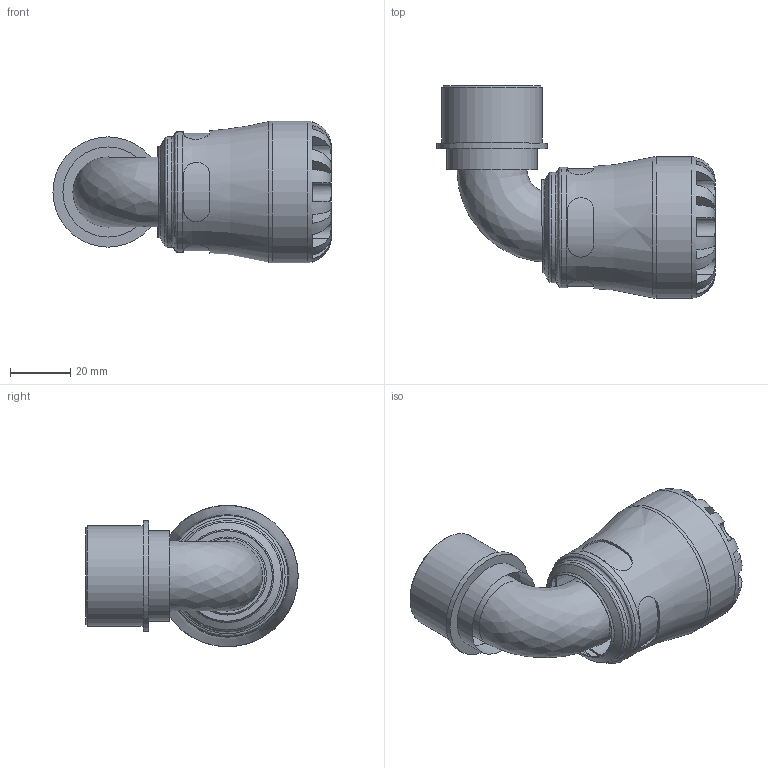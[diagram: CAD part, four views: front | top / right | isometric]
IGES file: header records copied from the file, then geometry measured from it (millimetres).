
Global section: file name: 108500025010_198500025010.ipt; native system: Autodesk Inventor 2015; preprocessor: unknown; author: KIM; date: 20170122.114951; units: millimetre
Bounding box: 92.29 x 70.5 x 47 mm (x, y, z)
Volume: 71759.3 mm3; surface area: 25037 mm2
Topology: 1 solids, 1 shells, 110 faces, 280 edges, 176 vertices
Faces by surface type: plane 61, revolution 26, cylinder 18, bspline 4, cone 1
Full cylindrical faces by diameter (mm): 29.924 x1, 33.249 x1, 36.574 x1, 36.66 x1, 39.95 x1, 47 x1
